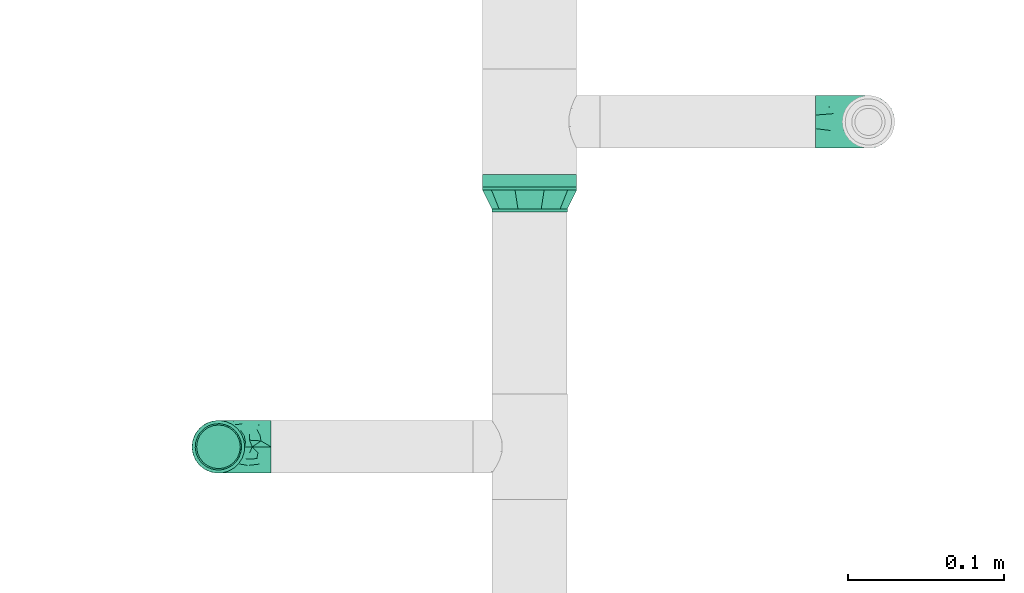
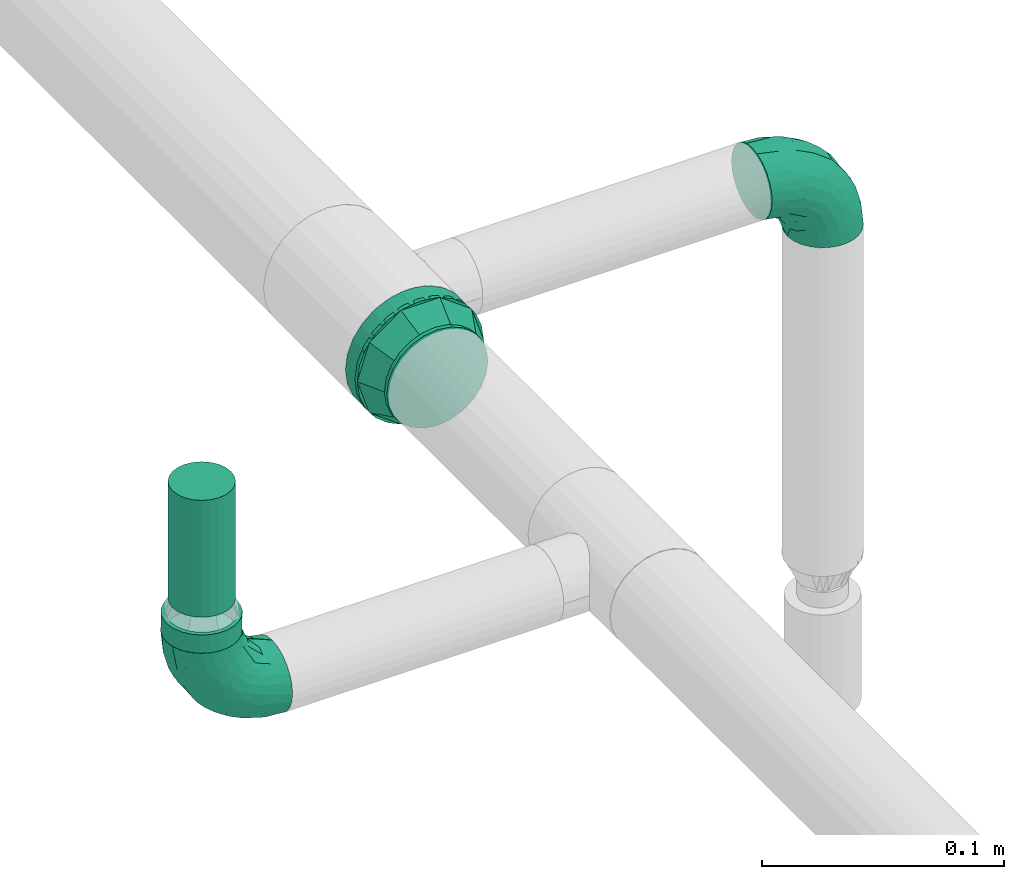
# One storey, part 32 of 43: 3 flow fittings, 2 flow segments, 1 flow terminal.
"""IFC2X3 building model written with IfcOpenShell, lengths in millimetres."""

from ifc_helpers import new_model, entity, si_unit, converted_unit, derived_unit, direction, frame, origin_with_axes, origin_2d_with_axis, place, context, subcontext, project, spatial, hollow_circle, extrude, open_shell, surface_model, source, transform, mapped, type_object, element, save


model = new_model("IFC2X3")

# Units and contexts
model_context = context("Model", 3, precision=0.01, world=frame((0.0, 4.29681676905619e-09, 0.0)), true_north=direction((4.01073788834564e-13, 1.0)))
plan_context = context("Plan", 3, precision=0.01, world=frame((0.0, 4.29681676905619e-09, 0.0)), true_north=direction((4.01073788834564e-13, 1.0)))
body_context = subcontext(model_context, "Body", "Model", "MODEL_VIEW")
ifc_project = project(units=[converted_unit("PLANEANGLEUNIT", "DEGREE", entity("IfcPositiveLengthMeasure", 0.0174532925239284), si_unit("PLANEANGLEUNIT", "RADIAN"), dimensions=[0, 0, 0, 0, 0, 0, 0]), si_unit("AREAUNIT", "SQUARE_METRE"), si_unit("LENGTHUNIT", "METRE", prefix="MILLI"), si_unit("MASSUNIT", "GRAM", prefix="KILO"), si_unit("POWERUNIT", "WATT"), si_unit("PRESSUREUNIT", "PASCAL"), si_unit("FORCEUNIT", "NEWTON", prefix="KILO"), si_unit("ELECTRICVOLTAGEUNIT", "VOLT"), si_unit("ELECTRICCURRENTUNIT", "AMPERE"), si_unit("THERMODYNAMICTEMPERATUREUNIT", "DEGREE_CELSIUS"), si_unit("TIMEUNIT", "SECOND"), si_unit("VOLUMEUNIT", "CUBIC_METRE"), derived_unit("LINEARVELOCITYUNIT", [(si_unit("LENGTHUNIT", "METRE"), 1), (si_unit("TIMEUNIT", "SECOND"), -1)]), derived_unit("VOLUMETRICFLOWRATEUNIT", [(si_unit("VOLUMEUNIT", "CUBIC_METRE"), 1), (si_unit("TIMEUNIT", "SECOND"), -1)]), derived_unit("THERMALTRANSMITTANCEUNIT", [(si_unit("POWERUNIT", "WATT"), 1), (si_unit("THERMODYNAMICTEMPERATUREUNIT", "KELVIN"), -1), (si_unit("AREAUNIT", "SQUARE_METRE"), -1)]), derived_unit("SOUNDPRESSUREUNIT", [(si_unit("PRESSUREUNIT", "PASCAL"), 1)])], contexts=[model_context, plan_context])

# Site, building, storey
site_placement = place(None, frame((0.0, -4.29681676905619e-09, 0.0), z_axis=(0.0, 0.0, 1.0), x_axis=(1.0, 0.0, 0.0)))
site = spatial("IfcSite", under=ifc_project, at=site_placement, CompositionType="ELEMENT")
building_placement = place(site_placement, frame((0.0, 4.29681676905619e-09, 0.0), z_axis=(0.0, 0.0, 1.0), x_axis=(1.0, 0.0, 0.0)))
building = spatial("IfcBuilding", under=site, at=building_placement, Name="mc-building", CompositionType="ELEMENT")
storey_placement = place(building_placement, frame((0.0, 0.0, 210900.0), z_axis=(0.0, 0.0, 1.0), x_axis=(1.0, 0.0, 0.0)))
storey = spatial("IfcBuildingStorey", under=building, at=storey_placement, Name="Nivå F", CompositionType="ELEMENT", Elevation=210900.0)

# Flow fittings
pipe_fitting_type_1 = type_object("IfcPipeFittingType", Name="magi_pipe_fe_elbow_short_001", PredefinedType="BEND")
shared_shape_1 = source(origin_with_axes(), body_context, "Body", "SurfaceModel", [
    surface_model("IfcShellBasedSurfaceModel", [(-33.8, 4.37404, -16.32415), (-33.8, 0.0, -16.9), (-33.8, 11.9501, -11.9501), (-33.8, 8.45, -14.63583), (-33.8, 16.32415, -4.37404), (-33.8, 14.63583, -8.45), (-33.8, -14.63583, -8.45), (-33.8, -16.32415, -4.37404), (-33.8, -8.45, 14.63583), (-33.8, -11.9501, -11.9501), (-33.8, -8.45, -14.63583), (-33.8, -4.37404, -16.32415), (-33.8, -16.9, 0.0), (-33.8, -16.32415, 4.37404), (-33.8, 11.9501, 11.9501), (-33.8, 14.63583, 8.45), (-33.8, 16.32415, 4.37404), (-33.8, 4.37404, 16.32415), (-33.8, 8.45, 14.63583), (-33.8, -14.63583, 8.45), (-33.8, -11.9501, 11.9501), (-33.8, -4.37404, 16.32415), (-33.8, 0.0, 16.9), (-33.8, 16.9, 0.0), (-11.9501, 33.8, -11.9501), (0.0, 33.8, -16.9), (-4.37404, 33.8, -16.32415), (-8.45, 33.8, -14.63583), (-14.63583, 33.8, -8.45), (-16.32415, 33.8, -4.37404), (14.63583, 33.8, -8.45), (8.45, 33.8, 14.63583), (16.32415, 33.8, -4.37404), (8.45, 33.8, -14.63583), (11.9501, 33.8, -11.9501), (4.37404, 33.8, -16.32415), (16.32415, 33.8, 4.37404), (16.9, 33.8, 0.0), (-11.9501, 33.8, 11.9501), (-16.32415, 33.8, 4.37404), (-14.63583, 33.8, 8.45), (-8.45, 33.8, 14.63583), (-4.37404, 33.8, 16.32415), (11.9501, 33.8, 11.9501), (14.63583, 33.8, 8.45), (0.0, 33.8, 16.9), (4.37404, 33.8, 16.32415), (-16.9, 33.8, 0.0), (-24.79389, -13.12945, 9.48721), (-22.19287, -9.75018, 12.59315), (-24.09897, -14.97035, 0.0), (-14.93934, -10.76256, 8.5297), (-22.46095, -14.75051, 5.27077), (14.75051, 22.46094, 5.27077), (11.9251, 13.23888, 4.33236), (13.04069, 14.39795, 0.0), (7.71387, 13.68847, 11.55891), (9.75018, 22.19287, 12.59315), (4.10169, 13.0571, 14.04018), (-24.84007, -6.39063, 15.2048), (-25.81779, -2.23879, 16.61097), (-23.66549, 2.59054, 16.87119), (-26.50418, 14.06512, 11.08152), (-24.21253, 17.66365, 7.72657), (-29.58514, 15.86957, 7.00283), (-6.17382, -7.5455, 0.0), (-13.23888, -11.9251, 4.33236), (-14.39795, -13.04069, 0.0), (-17.81434, 18.87373, 11.97104), (-6.30846, 29.15138, 15.82987), (-2.31622, 25.28002, 16.85849), (-29.23923, 10.23435, 13.77053), (-1.45439, -2.85688, 7.61475), (-0.28326, 0.34872, 10.09509), (-5.74484, -4.04709, 10.4122), (-4.41137, 11.31918, 16.59407), (-8.39727, 3.10034, 15.7812), (-1.72649, 9.1306, 15.53089), (-17.39909, 24.75344, 7.64977), (-26.19233, 20.0512, 0.0), (-28.14518, 17.29657, 4.25857), (-26.05147, 6.6281, 15.96447), (-5.87354, 16.61944, 16.86968), (-12.51807, 12.51807, 16.48937), (-10.06312, 7.38516, 16.81295), (-3.01882, 3.01882, 13.81718), (-13.0571, -4.10169, 14.04018), (-16.82553, -0.15166, 16.38038), (10.76256, 14.93934, 8.5297), (13.12945, 24.79389, 9.48721), (6.39063, 24.84007, 15.2048), (2.23879, 25.81779, 16.61097), (-13.68847, -7.71387, 11.55891), (14.97035, 24.09897, 0.0), (-7.30894, 22.89991, 16.09489), (-10.67958, 26.17414, 14.008), (-12.78295, 18.26924, 15.06066), (-13.88562, 22.45231, 12.93244), (-18.04944, 15.16501, 14.04434), (-23.11658, 20.08178, 4.02986), (-21.84989, 21.84989, 0.0), (-18.55817, 25.48277, 3.93065), (-13.95142, 26.94732, 11.03289), (-18.57098, 7.23906, 16.59756), (-16.58335, 4.14122, 16.89279), (-17.96666, 11.46709, 15.63151), (-9.84453, 17.54304, 16.18938), (0.15166, 16.82553, 16.38038), (-23.27207, 11.47201, 14.23154), (3.84842, 5.86994, 10.70473), (-8.0212, -7.54413, 7.93275), (1.00345, -2.19508, 4.57414), (5.13203, 3.01004, 5.90201), (5.24161, 1.7543, 2.53265), (8.70457, 7.04947, 3.99182), (-20.0512, 26.19233, 0.0), (8.4852, 8.76699, 7.09296), (-4.55488, -6.72064, 4.90681), (2.05031, -2.05031, 0.0), (7.5455, 6.17382, 0.0), (-26.75399, 2.1369, -16.845), (-14.61995, 24.73803, -11.27736), (-28.45274, -13.45335, -9.81895), (-26.00469, 6.63555, -15.96645), (-23.06726, 20.04573, -4.26202), (-13.80647, -4.26506, -14.17873), (-14.67501, -0.21081, -16.07388), (-6.7902, -0.2828, -13.8478), (-24.53586, 11.08096, -14.13417), (-26.72048, 14.00837, -11.05776), (10.0967, 24.44989, -12.75976), (5.83237, 21.40218, -15.03047), (6.66249, 28.54238, -15.38093), (-20.38182, 15.48705, -12.74596), (-15.65186, 19.64213, -13.01327), (-12.03528, 20.66498, -14.67665), (-15.61907, 15.61906, -14.83879), (-25.56551, -15.26206, 0.0), (-24.65452, -15.12934, -5.50955), (12.53268, 21.23441, -9.15363), (13.45335, 28.45274, -9.81895), (15.12934, 24.65452, -5.50955), (-7.35442, -8.31014, -5.65563), (-15.67504, -12.54494, -5.54878), (-24.44989, -10.0967, -12.75976), (0.16522, 0.41303, -9.71728), (-5.70658, -5.33066, -8.89288), (-5.13869, -2.37198, -11.53565), (-21.23441, -12.53268, -9.15363), (0.71146, 7.93863, -14.09382), (0.21081, 14.67501, -16.07388), (3.49291, 14.42772, -14.76381), (-24.89911, -2.13088, -16.591), (-28.54238, -6.66249, -15.38093), (-18.44386, -7.71663, -13.26957), (2.13088, 24.89911, -16.591), (-28.64342, 17.44413, -2.89318), (1.70017, -1.28722, -5.09504), (-16.57067, 26.81947, -7.36596), (-17.69055, 27.4263, -3.76405), (-12.89279, -9.7522, -8.66343), (-5.96611, 5.96611, -15.95814), (-20.53709, 20.09345, -8.28985), (-2.1369, 26.75399, -16.845), (-6.89872, 24.58781, -16.02578), (-10.60739, 26.53157, -13.98044), (-21.40218, -5.83237, -15.03047), (2.93192, 5.89627, -11.55917), (6.89393, 12.61842, -11.82233), (5.58056, 5.95325, -8.79455), (-3.99512, 18.61798, -16.89635), (-9.1383, 9.86148, -16.89041), (-9.99983, 16.02119, -16.39699), (-16.68576, 9.78031, -16.34199), (-27.01915, 16.61158, -7.12979), (15.26206, 25.56551, 0.0), (-18.61798, 3.99512, -16.89635), (-19.37495, 27.82495, 0.0), (9.7522, 12.89279, -8.66343), (-12.61842, -6.89393, -11.82233), (8.31014, 7.35442, -5.65563), (-18.84705, 19.14018, -10.96545), (12.54494, 15.67504, -5.54878)], [open_shell([[[0, 1, 2]], [[3, 0, 2]], [[4, 5, 2]], [[6, 2, 1]], [[2, 7, 8]], [[9, 6, 10]], [[1, 11, 10]], [[10, 6, 1]], [[2, 6, 7]], [[12, 13, 7]], [[4, 2, 14]], [[4, 15, 16]], [[4, 14, 15]], [[17, 18, 14]], [[14, 2, 8]], [[17, 14, 8]], [[19, 20, 13]], [[20, 7, 13]], [[21, 22, 8]], [[20, 8, 7]], [[8, 22, 17]], [[4, 16, 23]], [[24, 25, 26]], [[24, 26, 27]], [[24, 28, 29]], [[25, 24, 30]], [[31, 32, 24]], [[33, 30, 34]], [[33, 35, 25]], [[25, 30, 33]], [[32, 30, 24]], [[32, 36, 37]], [[38, 24, 29]], [[39, 40, 29]], [[40, 38, 29]], [[38, 41, 42]], [[38, 31, 24]], [[31, 38, 42]], [[36, 43, 44]], [[36, 32, 43]], [[31, 45, 46]], [[32, 31, 43]], [[42, 45, 31]], [[39, 29, 47]], [[20, 48, 49]], [[13, 12, 50]], [[51, 48, 52]], [[53, 54, 55]], [[48, 20, 19]], [[13, 52, 19]], [[56, 57, 58]], [[49, 8, 20]], [[49, 59, 8]], [[22, 60, 61]], [[62, 63, 64]], [[65, 66, 67]], [[57, 43, 31]], [[62, 68, 63]], [[42, 69, 70]], [[18, 71, 14]], [[21, 60, 22]], [[72, 73, 74]], [[75, 76, 77]], [[14, 62, 15]], [[40, 39, 78]], [[79, 23, 80]], [[64, 16, 15]], [[22, 61, 17]], [[17, 81, 18]], [[82, 83, 84]], [[74, 85, 86]], [[59, 86, 87]], [[88, 89, 57]], [[90, 31, 46]], [[44, 53, 36]], [[46, 45, 91]], [[54, 53, 88]], [[44, 89, 53]], [[92, 86, 49]], [[89, 44, 43]], [[8, 59, 21]], [[53, 55, 93]], [[93, 36, 53]], [[66, 52, 67]], [[94, 82, 70]], [[95, 96, 94]], [[97, 98, 96]], [[79, 99, 100]], [[41, 38, 95]], [[101, 100, 99]], [[68, 78, 63]], [[42, 41, 69]], [[23, 16, 80]], [[95, 94, 69]], [[78, 101, 99]], [[38, 102, 95]], [[70, 45, 42]], [[97, 95, 102]], [[13, 50, 52]], [[90, 57, 31]], [[57, 90, 58]], [[81, 17, 61]], [[103, 104, 84]], [[105, 81, 103]], [[38, 40, 102]], [[106, 96, 83]], [[94, 106, 82]], [[91, 70, 107]], [[71, 62, 14]], [[62, 108, 98]], [[86, 59, 49]], [[67, 52, 50]], [[60, 59, 87]], [[92, 49, 51]], [[86, 85, 76]], [[91, 90, 46]], [[37, 36, 93]], [[107, 77, 58]], [[107, 58, 90]], [[58, 85, 109]], [[110, 74, 92]], [[72, 74, 110]], [[66, 51, 52]], [[72, 111, 112]], [[113, 114, 112]], [[56, 88, 57]], [[52, 48, 19]], [[49, 48, 51]], [[57, 89, 43]], [[53, 89, 88]], [[103, 81, 61]], [[71, 81, 108]], [[16, 64, 80]], [[63, 78, 99]], [[47, 115, 101]], [[101, 115, 100]], [[40, 78, 102]], [[68, 102, 78]], [[97, 96, 95]], [[105, 98, 108]], [[103, 84, 83]], [[107, 70, 82]], [[76, 84, 87]], [[82, 84, 75]], [[70, 91, 45]], [[90, 91, 107]], [[59, 60, 21]], [[61, 60, 87]], [[73, 85, 74]], [[109, 112, 116]], [[103, 61, 104]], [[105, 103, 83]], [[96, 105, 83]], [[81, 105, 108]], [[96, 98, 105]], [[62, 98, 68]], [[61, 87, 104]], [[87, 84, 104]], [[86, 76, 87]], [[77, 76, 85]], [[58, 77, 85]], [[75, 77, 107]], [[82, 75, 107]], [[76, 75, 84]], [[81, 71, 18]], [[62, 71, 108]], [[95, 69, 41]], [[70, 69, 94]], [[62, 64, 15]], [[80, 63, 99]], [[63, 80, 64]], [[80, 99, 79]], [[66, 65, 117]], [[110, 66, 117]], [[112, 114, 116]], [[118, 117, 65]], [[110, 92, 51]], [[112, 111, 113]], [[119, 55, 54]], [[74, 86, 92]], [[58, 109, 56]], [[116, 56, 109]], [[66, 110, 51]], [[72, 110, 117]], [[111, 72, 117]], [[73, 112, 109]], [[117, 118, 111]], [[113, 111, 118]], [[118, 119, 113]], [[114, 119, 54]], [[119, 114, 113]], [[116, 54, 88]], [[54, 116, 114]], [[116, 88, 56]], [[112, 73, 72]], [[85, 73, 109]], [[78, 39, 101]], [[47, 101, 39]], [[102, 68, 97]], [[97, 68, 98]], [[82, 106, 83]], [[94, 96, 106]], [[0, 120, 1]], [[28, 24, 121]], [[9, 122, 6]], [[3, 123, 0]], [[100, 124, 79]], [[125, 126, 127]], [[128, 2, 129]], [[130, 131, 132]], [[128, 129, 133]], [[134, 135, 136]], [[128, 3, 2]], [[67, 137, 138]], [[139, 140, 141]], [[138, 7, 6]], [[142, 65, 143]], [[144, 9, 10]], [[145, 146, 147]], [[143, 138, 148]], [[149, 150, 151]], [[152, 11, 1]], [[10, 153, 144]], [[148, 144, 154]], [[153, 10, 11]], [[35, 155, 25]], [[23, 79, 156]], [[146, 157, 142]], [[158, 159, 29]], [[143, 160, 142]], [[161, 150, 149]], [[29, 28, 158]], [[121, 162, 158]], [[33, 34, 130]], [[25, 163, 26]], [[26, 163, 164]], [[140, 34, 30]], [[24, 27, 165]], [[124, 159, 162]], [[155, 35, 132]], [[153, 152, 166]], [[123, 3, 128]], [[167, 168, 169]], [[170, 155, 150]], [[26, 164, 27]], [[132, 35, 33]], [[140, 130, 34]], [[166, 152, 126]], [[133, 134, 136]], [[2, 5, 129]], [[168, 131, 130]], [[30, 32, 141]], [[170, 171, 172]], [[173, 123, 128]], [[156, 174, 4]], [[165, 27, 164]], [[172, 164, 170]], [[134, 165, 135]], [[122, 138, 6]], [[137, 12, 7]], [[32, 37, 175]], [[168, 130, 139]], [[150, 155, 131]], [[163, 155, 170]], [[151, 168, 149]], [[150, 161, 171]], [[166, 125, 154]], [[122, 144, 148]], [[120, 152, 1]], [[176, 171, 126]], [[176, 126, 152]], [[126, 161, 127]], [[160, 143, 148]], [[137, 7, 138]], [[32, 175, 141]], [[55, 141, 175]], [[174, 129, 5]], [[128, 133, 136]], [[173, 128, 136]], [[120, 123, 176]], [[121, 158, 28]], [[159, 100, 177]], [[164, 172, 135]], [[121, 24, 165]], [[159, 47, 29]], [[79, 124, 156]], [[124, 162, 174]], [[159, 124, 100]], [[178, 169, 168]], [[127, 161, 149]], [[145, 169, 157]], [[146, 142, 160]], [[127, 149, 167]], [[127, 179, 125]], [[129, 174, 162]], [[5, 4, 174]], [[157, 65, 142]], [[67, 138, 143]], [[123, 120, 0]], [[152, 120, 176]], [[155, 163, 25]], [[164, 163, 170]], [[170, 150, 171]], [[173, 136, 172]], [[126, 171, 161]], [[173, 171, 176]], [[171, 173, 172]], [[123, 173, 176]], [[148, 179, 160]], [[127, 147, 179]], [[179, 146, 160]], [[157, 146, 145]], [[169, 178, 180]], [[168, 139, 178]], [[157, 169, 180]], [[169, 145, 167]], [[167, 145, 147]], [[149, 168, 167]], [[162, 181, 129]], [[181, 121, 134]], [[179, 147, 146]], [[167, 147, 127]], [[181, 134, 133]], [[165, 134, 121]], [[164, 135, 165]], [[172, 136, 135]], [[129, 181, 133]], [[121, 181, 162]], [[159, 158, 162]], [[47, 159, 177]], [[174, 156, 124]], [[23, 156, 4]], [[130, 132, 33]], [[155, 132, 131]], [[141, 140, 30]], [[130, 140, 139]], [[152, 153, 11]], [[144, 153, 166]], [[144, 122, 9]], [[138, 122, 148]], [[150, 131, 151]], [[157, 119, 118]], [[67, 143, 65]], [[168, 151, 131]], [[119, 157, 180]], [[157, 118, 65]], [[154, 125, 179]], [[126, 125, 166]], [[148, 154, 179]], [[166, 154, 144]], [[139, 182, 178]], [[141, 182, 139]], [[178, 182, 180]], [[182, 55, 119]], [[141, 55, 182]], [[182, 119, 180]]])]),
])
for number, where, z_axis, x_axis, name in (
    (1, (610166.89343, 695825.22914, 2660.0), (0.0, -1.0, 0.0), (0.0, 0.0, -1.0), "magi_pipe_fe_elbow_short_001"),
    (2, (610583.98955, 696033.67925, 2660.0), (0.0, 1.0, 0.0), (1.0, 0.0, 0.0), "magi_pipe_fe_elbow_short_001"),
):
    element("IfcFlowFitting", number, at=place(storey_placement, frame(where, z_axis=z_axis, x_axis=x_axis)), inside=storey, type_object=pipe_fitting_type_1, Name=name, context=body_context, shape_type="MappedRepresentation", body=[
        mapped(shared_shape_1, transform((0.0, 0.0, 0.0), scale=1.0)),
    ])
pipe_fitting_type_2 = type_object("IfcPipeFittingType", Name="magi_pipe_fe_reducer_centric_short_NOR", PredefinedType="TRANSITION")
shared_shape_2 = source(origin_with_axes(), body_context, "Body", "SurfaceModel", [
    surface_model("IfcShellBasedSurfaceModel", [(-2.0, 0.0, 24.2), (-2.0, 6.26342, 23.37541), (-2.0, 12.1, 20.95781), (-2.0, 17.11198, 17.11198), (-2.0, 24.2, 0.0), (-2.0, 20.95781, 12.1), (-2.0, -23.37541, 6.26342), (-2.0, -17.11198, -17.11198), (-2.0, -6.26342, 23.37541), (-2.0, -17.11198, 17.11198), (-2.0, -12.1, 20.95781), (-2.0, -20.95781, 12.1), (-2.0, -24.2, 0.0), (-2.0, 23.37541, 6.26342), (-2.0, 23.37541, -6.26342), (-2.0, 6.26342, -23.37541), (-2.0, 17.11198, -17.11198), (-2.0, 20.95781, -12.1), (-2.0, 12.1, -20.95781), (-2.0, -23.37541, -6.26342), (-2.0, -20.95781, -12.1), (-2.0, -6.26342, -23.37541), (-2.0, -12.1, -20.95781), (-2.0, 0.0, -24.2), (0.0, 24.2, 0.0), (0.0, 6.26342, -23.37541), (0.0, 12.1, -20.95781), (0.0, 23.37541, -6.26342), (0.0, 17.11198, -17.11198), (0.0, 20.95781, -12.1), (0.0, -24.2, 0.0), (0.0, -12.1, -20.95781), (0.0, -6.26342, -23.37541), (0.0, 0.0, -24.2), (0.0, -17.11198, -17.11198), (0.0, -23.37541, -6.26342), (0.0, -20.95781, -12.1), (0.0, 20.95781, 12.1), (0.0, 17.11198, 17.11198), (0.0, 12.1, 20.95781), (0.0, 6.26342, 23.37541), (0.0, 0.0, 24.2), (0.0, -23.37541, 6.26342), (0.0, -17.11198, 17.11198), (0.0, -20.95781, 12.1), (0.0, -6.26342, 23.37541), (0.0, -12.1, 20.95781), (0.0, 23.37541, 6.26342), (14.0, 15.1, -26.15397), (14.0, 15.1, 26.15397), (14.0, 7.81634, -29.17096), (14.0, 30.2, 0.0), (14.0, 21.35462, -21.35462), (14.0, 26.15397, -15.1), (14.0, 29.17096, -7.81634), (14.0, -15.1, -26.15397), (14.0, 0.0, -30.2), (14.0, -7.81634, -29.17096), (14.0, -21.35462, -21.35462), (14.0, -29.17096, -7.81634), (14.0, -26.15397, -15.1), (14.0, -29.17096, 7.81634), (14.0, 21.35462, 21.35462), (14.0, 29.17096, 7.81634), (14.0, 26.15397, 15.1), (14.0, 7.81634, 29.17096), (14.0, 0.0, 30.2), (14.0, -21.35462, 21.35462), (14.0, -7.81634, 29.17096), (14.0, -26.15397, 15.1), (14.0, -30.2, 0.0), (14.0, -15.1, 26.15397), (12.0, 0.0, 30.2), (12.0, 7.81634, 29.17096), (12.0, 15.1, 26.15397), (12.0, -29.17096, 7.81634), (12.0, 21.35462, 21.35462), (12.0, 26.15397, 15.1), (12.0, 29.17096, 7.81634), (12.0, 29.17096, -7.81634), (12.0, -7.81634, 29.17096), (12.0, -21.35462, 21.35462), (12.0, -15.1, 26.15397), (12.0, -26.15397, 15.1), (12.0, -29.17096, -7.81634), (12.0, -30.2, 0.0), (12.0, 30.2, 0.0), (12.0, 26.15397, -15.1), (12.0, 7.81634, -29.17096), (12.0, 21.35462, -21.35462), (12.0, 15.1, -26.15397), (12.0, -15.1, -26.15397), (12.0, -21.35462, -21.35462), (12.0, -26.15397, -15.1), (12.0, 0.0, -30.2), (12.0, -7.81634, -29.17096), (12.0, 9.33231, 28.72191), (12.0, -9.33231, 28.72191), (12.0, 24.43231, -17.75111), (12.0, 24.43231, 17.75111), (12.0, -24.43231, 17.75111), (12.0, -24.43231, -17.75111), (12.0, -9.33231, -28.72191), (12.0, 9.33231, -28.72191), (0.0, -7.47821, 23.01557), (0.0, 7.47821, 23.01557), (0.0, -19.57821, 14.2244), (0.0, -19.57821, -14.2244), (0.0, 19.57821, 14.2244), (0.0, 19.57821, -14.2244), (0.0, 7.47821, -23.01557), (0.0, -7.47821, -23.01557), (12.0, -27.31616, -8.87556), (0.0, -21.8891, -7.1122), (0.0, -13.52821, -18.61999), (12.0, -16.88231, -23.23651), (12.0, 0.0, -28.72191), (0.0, 0.0, -23.01557), (12.0, 27.31616, -8.87556), (12.0, 16.88231, -23.23651), (0.0, 13.52821, -18.61999), (0.0, 22.02177, -6.7039), (12.0, 27.31616, 8.87556), (0.0, 21.8891, 7.1122), (0.0, 13.52821, 18.61999), (12.0, 16.88231, 23.23651), (12.0, 0.0, 28.72191), (0.0, 0.0, 23.01557), (12.0, -27.31616, 8.87556), (12.0, -16.88231, 23.23651), (0.0, -13.52821, 18.61999), (0.0, -22.02177, 6.7039)], [open_shell([[[0, 1, 2]], [[0, 2, 3]], [[4, 3, 5]], [[6, 0, 7]], [[0, 3, 7]], [[8, 9, 10]], [[8, 0, 9]], [[9, 6, 11]], [[0, 6, 9]], [[6, 7, 12]], [[4, 5, 13]], [[3, 14, 15]], [[16, 14, 17]], [[18, 15, 14]], [[18, 14, 16]], [[15, 7, 3]], [[19, 7, 20]], [[12, 7, 19]], [[15, 21, 22]], [[22, 7, 15]], [[21, 15, 23]], [[14, 3, 4]], [[24, 25, 26]], [[27, 26, 28]], [[27, 24, 26]], [[27, 28, 29]], [[25, 30, 31]], [[25, 32, 33]], [[25, 31, 32]], [[34, 35, 36]], [[34, 31, 30]], [[34, 30, 35]], [[25, 24, 37]], [[37, 38, 25]], [[25, 38, 30]], [[39, 40, 41]], [[39, 41, 38]], [[30, 38, 41]], [[42, 43, 44]], [[45, 42, 30]], [[43, 45, 46]], [[45, 43, 42]], [[30, 41, 45]], [[24, 47, 37]], [[19, 35, 12]], [[20, 36, 19]], [[31, 7, 22]], [[20, 7, 34]], [[32, 22, 21]], [[19, 36, 35]], [[35, 30, 12]], [[32, 31, 22]], [[34, 7, 31]], [[34, 36, 20]], [[33, 32, 21]], [[21, 23, 33]], [[15, 25, 23]], [[18, 26, 15]], [[29, 16, 17]], [[18, 16, 28]], [[27, 17, 14]], [[18, 28, 26]], [[26, 25, 15]], [[24, 27, 14]], [[29, 17, 27]], [[29, 28, 16]], [[4, 24, 14]], [[23, 25, 33]], [[13, 47, 4]], [[5, 37, 13]], [[39, 3, 2]], [[5, 3, 38]], [[40, 2, 1]], [[13, 37, 47]], [[47, 24, 4]], [[40, 39, 2]], [[38, 3, 39]], [[38, 37, 5]], [[41, 40, 1]], [[1, 0, 41]], [[8, 45, 0]], [[10, 46, 8]], [[44, 9, 11]], [[10, 9, 43]], [[42, 11, 6]], [[10, 43, 46]], [[46, 45, 8]], [[30, 42, 6]], [[44, 11, 42]], [[44, 43, 9]], [[12, 30, 6]], [[0, 45, 41]], [[48, 49, 50]], [[51, 48, 52]], [[53, 54, 51]], [[53, 51, 52]], [[55, 50, 49]], [[56, 55, 57]], [[56, 50, 55]], [[58, 59, 60]], [[59, 58, 55]], [[55, 61, 59]], [[51, 62, 48]], [[63, 64, 62]], [[62, 49, 48]], [[49, 65, 66]], [[55, 49, 67]], [[68, 49, 66]], [[61, 67, 69]], [[70, 59, 61]], [[67, 68, 71]], [[61, 55, 67]], [[68, 67, 49]], [[63, 62, 51]], [[72, 73, 74]], [[75, 72, 74]], [[76, 77, 78]], [[74, 76, 75]], [[76, 79, 75]], [[80, 81, 82]], [[80, 72, 81]], [[81, 75, 83]], [[72, 75, 81]], [[75, 84, 85]], [[86, 76, 78]], [[79, 87, 75]], [[87, 88, 75]], [[89, 90, 88]], [[89, 88, 87]], [[88, 91, 75]], [[84, 92, 93]], [[92, 84, 91]], [[91, 94, 95]], [[84, 75, 91]], [[88, 94, 91]], [[79, 76, 86]], [[84, 59, 85]], [[93, 60, 84]], [[55, 92, 91]], [[93, 92, 58]], [[57, 91, 95]], [[84, 60, 59]], [[59, 70, 85]], [[57, 55, 91]], [[58, 92, 55]], [[58, 60, 93]], [[56, 57, 95]], [[95, 94, 56]], [[88, 50, 94]], [[90, 48, 88]], [[53, 89, 87]], [[90, 89, 52]], [[54, 87, 79]], [[90, 52, 48]], [[48, 50, 88]], [[51, 54, 79]], [[53, 87, 54]], [[53, 52, 89]], [[86, 51, 79]], [[94, 50, 56]], [[78, 63, 86]], [[77, 64, 78]], [[49, 76, 74]], [[77, 76, 62]], [[65, 74, 73]], [[78, 64, 63]], [[63, 51, 86]], [[65, 49, 74]], [[62, 76, 49]], [[62, 64, 77]], [[66, 65, 73]], [[73, 72, 66]], [[80, 68, 72]], [[82, 71, 80]], [[69, 81, 83]], [[82, 81, 67]], [[61, 83, 75]], [[82, 67, 71]], [[71, 68, 80]], [[70, 61, 75]], [[69, 83, 61]], [[69, 67, 81]], [[85, 70, 75]], [[72, 68, 66]], [[85, 96, 97]], [[96, 98, 99]], [[86, 99, 98]], [[85, 97, 100]], [[85, 101, 98]], [[98, 102, 103]], [[102, 98, 101]], [[85, 98, 96]], [[104, 105, 24]], [[106, 107, 30]], [[104, 107, 106]], [[24, 105, 108]], [[24, 109, 110]], [[107, 110, 111]], [[110, 107, 24]], [[24, 107, 104]], [[112, 30, 113]], [[113, 107, 101]], [[102, 114, 111]], [[30, 112, 85]], [[113, 101, 112]], [[115, 107, 114]], [[116, 102, 111]], [[117, 103, 116]], [[103, 117, 110]], [[107, 115, 101]], [[102, 115, 114]], [[109, 118, 98]], [[110, 119, 103]], [[120, 98, 119]], [[121, 86, 118]], [[119, 110, 120]], [[121, 24, 86]], [[120, 109, 98]], [[116, 111, 117]], [[118, 109, 121]], [[122, 24, 123]], [[123, 108, 99]], [[96, 124, 105]], [[24, 122, 86]], [[123, 99, 122]], [[125, 108, 124]], [[126, 96, 105]], [[127, 97, 126]], [[97, 127, 104]], [[108, 125, 99]], [[96, 125, 124]], [[106, 128, 100]], [[104, 129, 97]], [[130, 100, 129]], [[131, 85, 128]], [[129, 104, 130]], [[131, 30, 85]], [[130, 106, 100]], [[126, 105, 127]], [[128, 106, 131]]])]),
])
flow_fitting_placement = place(storey_placement, frame((610366.6122, 695977.87925, 2660.0), z_axis=(0.0, 0.0, 1.0), x_axis=(0.0, 1.0, 0.0)))
element("IfcFlowFitting", 3, at=flow_fitting_placement, inside=storey, type_object=pipe_fitting_type_2, Name="magi_pipe_fe_reducer_centric_short_NOR", context=body_context, shape_type="MappedRepresentation", body=[
    mapped(shared_shape_2, transform((0.0, 0.0, 0.0), scale=1.0)),
])

# Flow segments
pipe_segment_type = type_object("IfcPipeSegmentType", Name="Stålrør normaltykke", PredefinedType="RIGIDSEGMENT")
shared_shape_3 = source(origin_with_axes(), body_context, "Body", "SweptSolid", [
    extrude(hollow_circle(Radius=30.1, WallThickness=2.0, at=origin_2d_with_axis()), frame((0.0, 0.0, 0.0), z_axis=(1.0, 0.0, 0.0), x_axis=(0.0, 1.0, 0.0)), (0.0, 0.0, 1.0), 10.0),
])
flow_segment_1_placement = place(storey_placement, frame((610366.6122, 695999.87925, 2660.0), z_axis=(0.0, 0.0, 1.0), x_axis=(0.0, -1.0, 0.0)))
element("IfcFlowSegment", 4, at=flow_segment_1_placement, inside=storey, type_object=pipe_segment_type, Name="Stålrør normaltykke", context=body_context, shape_type="MappedRepresentation", body=[
    mapped(shared_shape_3, transform((0.0, 0.0, 0.0), scale=1.0)),
])
shared_shape_4 = source(origin_with_axes(), body_context, "Body", "SweptSolid", [
    extrude(hollow_circle(Radius=16.9, WallThickness=2.0, at=origin_2d_with_axis()), frame((0.0, 0.0, 0.0), z_axis=(1.0, 0.0, 0.0), x_axis=(0.0, 1.0, 0.0)), (0.0, 0.0, 1.0), 9.2),
])
flow_segment_2_placement = place(storey_placement, frame((610166.89343, 695825.22914, 2693.79999999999), z_axis=(-0.996846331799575, 0.0788420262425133, 0.00901807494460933), x_axis=(0.00899000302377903, -0.00071100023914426, 0.999959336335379)))
element("IfcFlowSegment", 5, at=flow_segment_2_placement, inside=storey, type_object=pipe_segment_type, Name="Stålrør normaltykke", context=body_context, shape_type="MappedRepresentation", body=[
    mapped(shared_shape_4, transform((0.0, 0.0, 0.0), scale=1.0)),
])

# Flow terminal
fire_suppression_terminal_type = type_object("IfcFireSuppressionTerminalType", Name="SU-20-K115-68DGR-STD", PredefinedType="NOTDEFINED")
shared_shape_5 = source(origin_with_axes(), body_context, "Body", "SurfaceModel", [
    surface_model("IfcShellBasedSurfaceModel", [(3.62347, -13.52296, 59.0), (-3.62347, -13.52296, 59.0), (0.0, -14.0, 59.0), (12.12436, -7.0, 59.0), (7.0, -12.12436, 59.0), (-9.89949, -9.89949, 59.0), (13.52296, 3.62347, 59.0), (9.89949, -9.89949, 59.0), (-7.0, -12.12436, 59.0), (-12.12436, -7.0, 59.0), (-14.0, 0.0, 59.0), (-13.52296, -3.62347, 59.0), (-13.52296, 3.62347, 59.0), (13.52296, -3.62347, 59.0), (14.0, 0.0, 59.0), (9.89949, 9.89949, 59.0), (12.12436, 7.0, 59.0), (7.0, 12.12436, 59.0), (3.62347, 13.52296, 59.0), (-9.89949, 9.89949, 59.0), (-12.12436, 7.0, 59.0), (0.0, 14.0, 59.0), (-3.62347, 13.52296, 59.0), (-7.0, 12.12436, 59.0), (9.89949, 9.89949, 0.0), (0.0, 14.0, 0.0), (3.62347, 13.52296, 0.0), (7.0, 12.12436, 0.0), (12.12436, 7.0, 0.0), (13.52296, 3.62347, 0.0), (-9.89949, -9.89949, 0.0), (-3.62347, 13.52296, 0.0), (-9.89949, 9.89949, 0.0), (-7.0, 12.12436, 0.0), (-13.52296, 3.62347, 0.0), (-12.12436, 7.0, 0.0), (-14.0, 0.0, 0.0), (3.62347, -13.52296, 0.0), (14.0, 0.0, 0.0), (13.52296, -3.62347, 0.0), (12.12436, -7.0, 0.0), (7.0, -12.12436, 0.0), (9.89949, -9.89949, 0.0), (-12.12436, -7.0, 0.0), (-13.52296, -3.62347, 0.0), (-3.62347, -13.52296, 0.0), (-7.0, -12.12436, 0.0), (0.0, -14.0, 0.0)], [open_shell([[[0, 1, 2]], [[3, 0, 4]], [[5, 0, 6]], [[3, 4, 7]], [[6, 0, 3]], [[1, 5, 8]], [[1, 0, 5]], [[9, 10, 11]], [[10, 9, 5]], [[5, 12, 10]], [[3, 13, 14]], [[12, 5, 6]], [[15, 6, 16]], [[15, 17, 18]], [[15, 18, 6]], [[12, 6, 18]], [[12, 19, 20]], [[19, 12, 21]], [[19, 22, 23]], [[22, 19, 21]], [[12, 18, 21]], [[6, 3, 14]], [[24, 25, 26]], [[24, 26, 27]], [[24, 28, 29]], [[24, 29, 25]], [[30, 31, 25]], [[31, 32, 33]], [[32, 31, 34]], [[32, 34, 35]], [[36, 34, 30]], [[30, 34, 31]], [[25, 29, 37]], [[38, 39, 40]], [[37, 29, 40]], [[41, 37, 40]], [[41, 40, 42]], [[25, 37, 30]], [[36, 43, 44]], [[30, 43, 36]], [[30, 45, 46]], [[30, 37, 45]], [[47, 45, 37]], [[40, 29, 38]], [[11, 44, 43]], [[30, 9, 43]], [[8, 46, 45]], [[30, 46, 5]], [[1, 45, 47]], [[44, 10, 36]], [[44, 11, 10]], [[43, 9, 11]], [[30, 5, 9]], [[8, 5, 46]], [[45, 1, 8]], [[47, 2, 1]], [[0, 37, 41]], [[42, 4, 41]], [[3, 40, 39]], [[42, 40, 7]], [[13, 39, 38]], [[37, 0, 2]], [[41, 4, 0]], [[42, 7, 4]], [[40, 3, 7]], [[13, 3, 39]], [[38, 14, 13]], [[37, 2, 47]], [[6, 38, 29]], [[17, 27, 26]], [[27, 15, 24]], [[18, 26, 25]], [[29, 16, 6]], [[6, 14, 38]], [[28, 15, 16]], [[28, 24, 15]], [[15, 27, 17]], [[26, 18, 17]], [[28, 16, 29]], [[25, 21, 18]], [[22, 31, 33]], [[32, 23, 33]], [[20, 35, 34]], [[32, 35, 19]], [[12, 34, 36]], [[31, 22, 21]], [[33, 23, 22]], [[32, 19, 23]], [[35, 20, 19]], [[12, 20, 34]], [[36, 10, 12]], [[31, 21, 25]]])]),
])
flow_terminal_placement = place(storey_placement, frame((610167.03901, 695825.21763, 2709.99249999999), z_axis=(0.0, 0.0, 1.0), x_axis=(0.0, -1.0, 0.0)))
element("IfcFlowTerminal", 6, at=flow_terminal_placement, inside=storey, type_object=fire_suppression_terminal_type, Name="SU-20-K115-68DGR-STD", context=body_context, shape_type="MappedRepresentation", body=[
    mapped(shared_shape_5, transform((0.0, 0.0, 0.0), scale=1.0)),
])

save(model, "model.ifc")
